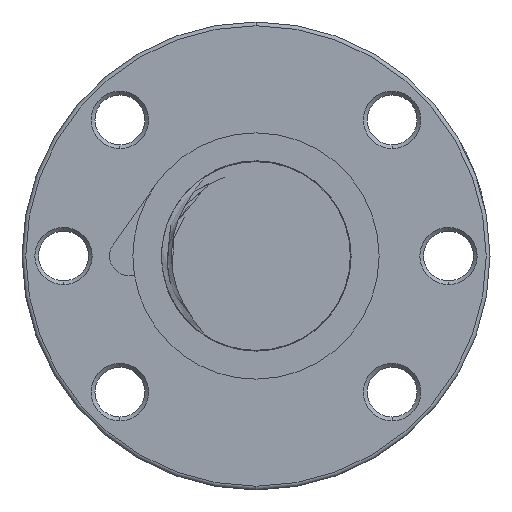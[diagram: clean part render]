
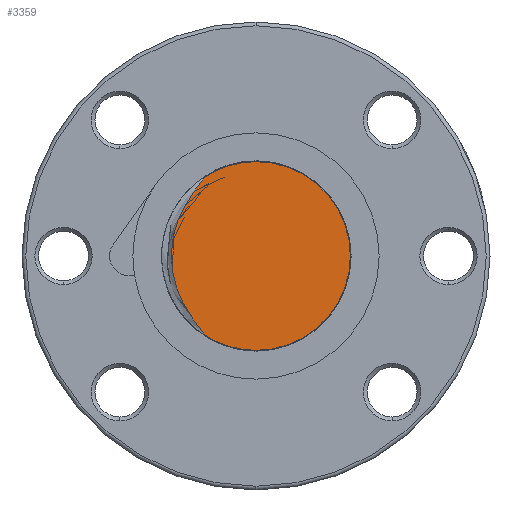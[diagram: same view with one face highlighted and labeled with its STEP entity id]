
A CAD part, left-side view. The second image highlights one B-rep face of the part: STEP entity #3359.
In plain terms, the highlighted planar face has unit normal (-1, 0, 0).
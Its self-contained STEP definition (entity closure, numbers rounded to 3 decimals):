
#3302 = EDGE_CURVE ( 'NONE', #3310, #3304, #10839, .T. ) ;
#3304 = VERTEX_POINT ( 'NONE', #10834 ) ;
#3310 = VERTEX_POINT ( 'NONE', #10819 ) ;
#3355 = ORIENTED_EDGE ( 'NONE', *, *, #3302, .F. ) ;
#3357 = ORIENTED_EDGE ( 'NONE', *, *, #6810, .F. ) ;
#3359 = ADVANCED_FACE ( 'NONE', ( #11013 ), #11012, .F. ) ;
#3365 = EDGE_CURVE ( 'NONE', #3310, #6072, #11001, .T. ) ;
#3370 = EDGE_LOOP ( 'NONE', ( #3355, #12197, #3357, #12250 ) ) ;
#5848 = VERTEX_POINT ( 'NONE', #24765 ) ;
#6072 = VERTEX_POINT ( 'NONE', #24882 ) ;
#6746 = EDGE_CURVE ( 'NONE', #3304, #5848, #25041, .T. ) ;
#6810 = EDGE_CURVE ( 'NONE', #5848, #6072, #25062, .T. ) ;
#10819 = CARTESIAN_POINT ( 'NONE',  ( -150., 6.885, 10.433 ) ) ;
#10834 = CARTESIAN_POINT ( 'NONE',  ( -150., 0., 12.5 ) ) ;
#10835 = DIRECTION ( 'NONE',  ( 0., 1., 0. ) ) ;
#10836 = DIRECTION ( 'NONE',  ( 1., 0., 0. ) ) ;
#10837 = CARTESIAN_POINT ( 'NONE',  ( -150., 0., 0. ) ) ;
#10838 = AXIS2_PLACEMENT_3D ( 'NONE', #10837, #10836, #10835 ) ;
#10839 = CIRCLE ( 'NONE', #10838, 12.5 ) ;
#10963 = CARTESIAN_POINT ( 'NONE',  ( -150., 6.887, -10.432 ) ) ;
#10964 = CARTESIAN_POINT ( 'NONE',  ( -150., 6.934, -10.321 ) ) ;
#10965 = CARTESIAN_POINT ( 'NONE',  ( -150., 6.996, -10.216 ) ) ;
#10966 = CARTESIAN_POINT ( 'NONE',  ( -150., 7.125, -10.013 ) ) ;
#10967 = CARTESIAN_POINT ( 'NONE',  ( -150., 7.193, -9.914 ) ) ;
#10968 = CARTESIAN_POINT ( 'NONE',  ( -150., 7.403, -9.621 ) ) ;
#10969 = CARTESIAN_POINT ( 'NONE',  ( -150., 7.548, -9.429 ) ) ;
#10970 = CARTESIAN_POINT ( 'NONE',  ( -150., 7.983, -8.853 ) ) ;
#10971 = CARTESIAN_POINT ( 'NONE',  ( -150., 8.27, -8.468 ) ) ;
#10972 = CARTESIAN_POINT ( 'NONE',  ( -150., 9.086, -7.284 ) ) ;
#10973 = CARTESIAN_POINT ( 'NONE',  ( -150., 9.57, -6.461 ) ) ;
#10974 = CARTESIAN_POINT ( 'NONE',  ( -150., 10.172, -5.152 ) ) ;
#10975 = CARTESIAN_POINT ( 'NONE',  ( -150., 10.353, -4.701 ) ) ;
#10976 = CARTESIAN_POINT ( 'NONE',  ( -150., 10.663, -3.786 ) ) ;
#10977 = CARTESIAN_POINT ( 'NONE',  ( -150., 10.792, -3.324 ) ) ;
#10978 = CARTESIAN_POINT ( 'NONE',  ( -150., 10.999, -2.389 ) ) ;
#10979 = CARTESIAN_POINT ( 'NONE',  ( -150., 11.078, -1.917 ) ) ;
#10981 = CARTESIAN_POINT ( 'NONE',  ( -150., 11.183, -0.964 ) ) ;
#10982 = CARTESIAN_POINT ( 'NONE',  ( -150., 11.21, -0.48 ) ) ;
#10983 = CARTESIAN_POINT ( 'NONE',  ( -150., 11.21, 0.971 ) ) ;
#10984 = CARTESIAN_POINT ( 'NONE',  ( -150., 11.105, 1.92 ) ) ;
#10985 = CARTESIAN_POINT ( 'NONE',  ( -150., 10.793, 3.315 ) ) ;
#10986 = CARTESIAN_POINT ( 'NONE',  ( -150., 10.664, 3.776 ) ) ;
#10987 = CARTESIAN_POINT ( 'NONE',  ( -150., 10.355, 4.689 ) ) ;
#10988 = CARTESIAN_POINT ( 'NONE',  ( -150., 10.175, 5.141 ) ) ;
#10989 = CARTESIAN_POINT ( 'NONE',  ( -150., 9.576, 6.453 ) ) ;
#10990 = CARTESIAN_POINT ( 'NONE',  ( -150., 9.093, 7.279 ) ) ;
#10991 = CARTESIAN_POINT ( 'NONE',  ( -150., 8.274, 8.465 ) ) ;
#10992 = CARTESIAN_POINT ( 'NONE',  ( -150., 7.984, 8.851 ) ) ;
#10993 = CARTESIAN_POINT ( 'NONE',  ( -150., 7.547, 9.428 ) ) ;
#10994 = CARTESIAN_POINT ( 'NONE',  ( -150., 7.401, 9.62 ) ) ;
#10995 = CARTESIAN_POINT ( 'NONE',  ( -150., 7.191, 9.914 ) ) ;
#10996 = CARTESIAN_POINT ( 'NONE',  ( -150., 7.122, 10.013 ) ) ;
#10997 = CARTESIAN_POINT ( 'NONE',  ( -150., 6.993, 10.217 ) ) ;
#10998 = CARTESIAN_POINT ( 'NONE',  ( -150., 6.932, 10.322 ) ) ;
#10999 = CARTESIAN_POINT ( 'NONE',  ( -150., 6.885, 10.433 ) ) ;
#11001 = B_SPLINE_CURVE_WITH_KNOTS ( 'NONE', 3,
 ( #10999, #10998, #10997, #10996, #10995, #10994, #10993, #10992, #10991, #10990, #10989, #10988, #10987, #10986, #10985, #10984, #10983, #10982, #10981, #10979, #10978, #10977, #10976, #10975, #10974, #10973, #10972, #10971, #10970, #10969, #10968, #10967, #10966, #10965, #10964, #10963 ),
 .UNSPECIFIED., .F., .F.,
 ( 4, 2, 2, 2, 2, 2, 2, 2, 2, 2, 2, 2, 2, 2, 2, 2, 2, 4 ),
 ( 0.008, 0.008, 0.009, 0.009, 0.011, 0.014, 0.015, 0.017, 0.019, 0.021, 0.022, 0.024, 0.025, 0.028, 0.03, 0.03, 0.031, 0.031 ),
 .UNSPECIFIED. ) ;
#11008 = DIRECTION ( 'NONE',  ( 0., 0., -1. ) ) ;
#11009 = DIRECTION ( 'NONE',  ( 1., 0., 0. ) ) ;
#11010 = CARTESIAN_POINT ( 'NONE',  ( -150., 0., 0. ) ) ;
#11011 = AXIS2_PLACEMENT_3D ( 'NONE', #11010, #11009, #11008 ) ;
#11012 = PLANE ( 'NONE',  #11011 ) ;
#11013 = FACE_OUTER_BOUND ( 'NONE', #3370, .T. ) ;
#12197 = ORIENTED_EDGE ( 'NONE', *, *, #3365, .T. ) ;
#12250 = ORIENTED_EDGE ( 'NONE', *, *, #6746, .F. ) ;
#24765 = CARTESIAN_POINT ( 'NONE',  ( -150., 0., -12.5 ) ) ;
#24882 = CARTESIAN_POINT ( 'NONE',  ( -150., 6.887, -10.432 ) ) ;
#25041 = CIRCLE ( 'NONE', #25066, 12.5 ) ;
#25059 = DIRECTION ( 'NONE',  ( 0., 1., 0. ) ) ;
#25060 = DIRECTION ( 'NONE',  ( 1., 0., 0. ) ) ;
#25061 = AXIS2_PLACEMENT_3D ( 'NONE', #25067, #25060, #25059 ) ;
#25062 = CIRCLE ( 'NONE', #25061, 12.5 ) ;
#25063 = DIRECTION ( 'NONE',  ( 0., 1., 0. ) ) ;
#25064 = DIRECTION ( 'NONE',  ( 1., 0., 0. ) ) ;
#25065 = CARTESIAN_POINT ( 'NONE',  ( -150., 0., 0. ) ) ;
#25066 = AXIS2_PLACEMENT_3D ( 'NONE', #25065, #25064, #25063 ) ;
#25067 = CARTESIAN_POINT ( 'NONE',  ( -150., 0., 0. ) ) ;
